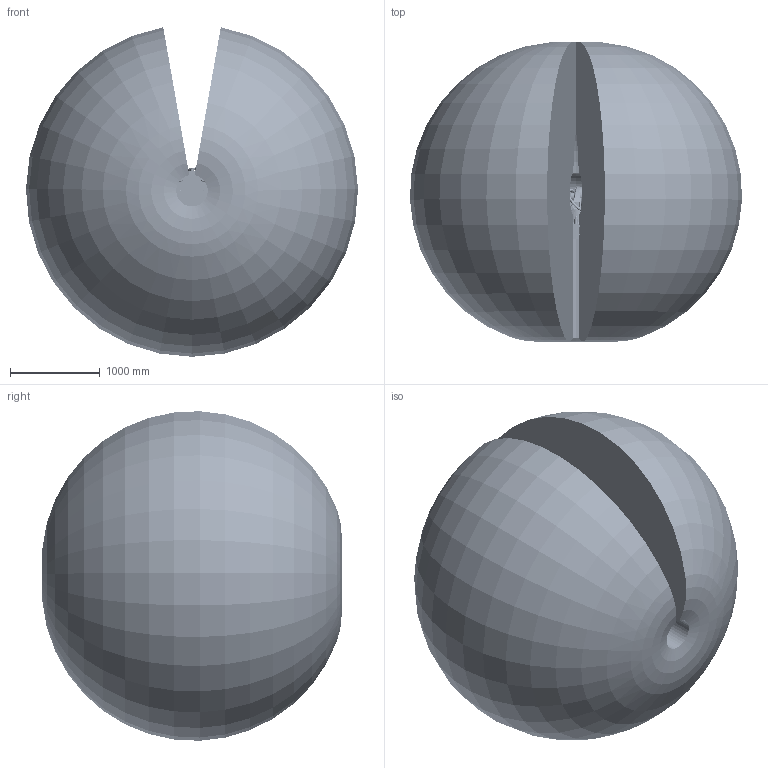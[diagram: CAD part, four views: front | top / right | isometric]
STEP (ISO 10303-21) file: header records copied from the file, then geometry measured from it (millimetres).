
FILE_DESCRIPTION (( 'STEP AP203' ), '1' );
FILE_NAME ('ER25-1800 机器人数模(带包络图203) V1.6.STEP', '2024-01-08T07:52:15', ( '' ), ( '' ), 'SwSTEP 2.0', 'SolidWorks 2021', '' );
FILE_SCHEMA (( 'CONFIG_CONTROL_DESIGN' ));
Length unit declared in the file: millimetre
Products named in the file (9): 转座^ER25-1800 机器人数模(带包络图) V1.6; 小臂^ER25-1800 机器人数模(带包络图) V1.6; 大臂^ER25-1800 机器人数模(带包络图) V1.6; 底座^ER25-1800 机器人数模(带包络图) V1.6; 电机座^ER25-1800 机器人数模(带包络图) V1.6; 末端法兰^ER25-1800 机器人数模(带包络图) V1.6; 运动范围^ER25-1800 机器人数模(带包络图) V1.6; ER25-1800 机器人数模(带包络图203) V1.6; 手腕^ER25-1800 机器人数模(带包络图) V1.6
Assembly tree (8 placements, depth 2):
  ER25-1800 机器人数模(带包络图203) V1.6
    底座^ER25-1800 机器人数模(带包络图) V1.6
    转座^ER25-1800 机器人数模(带包络图) V1.6
    大臂^ER25-1800 机器人数模(带包络图) V1.6
    电机座^ER25-1800 机器人数模(带包络图) V1.6
    小臂^ER25-1800 机器人数模(带包络图) V1.6
    手腕^ER25-1800 机器人数模(带包络图) V1.6
    末端法兰^ER25-1800 机器人数模(带包络图) V1.6
    运动范围^ER25-1800 机器人数模(带包络图) V1.6
Bounding box: 3697.06 x 3332.34 x 3669.23 mm (x, y, z)
Volume: 23368032361.3 mm3; surface area: 55261648 mm2
Topology: 8 solids, 116 shells, 9982 faces, 25008 edges, 15504 vertices
Faces by surface type: cylinder 3396, plane 3072, bspline 2231, cone 1233, torus 50
Entity records: 495288 total; most frequent: CARTESIAN_POINT 271949, ORIENTED_EDGE 49224, DIRECTION 42647, EDGE_CURVE 24612, AXIS2_PLACEMENT_3D 16230, VERTEX_POINT 15504, EDGE_LOOP 10940, LINE 10187
